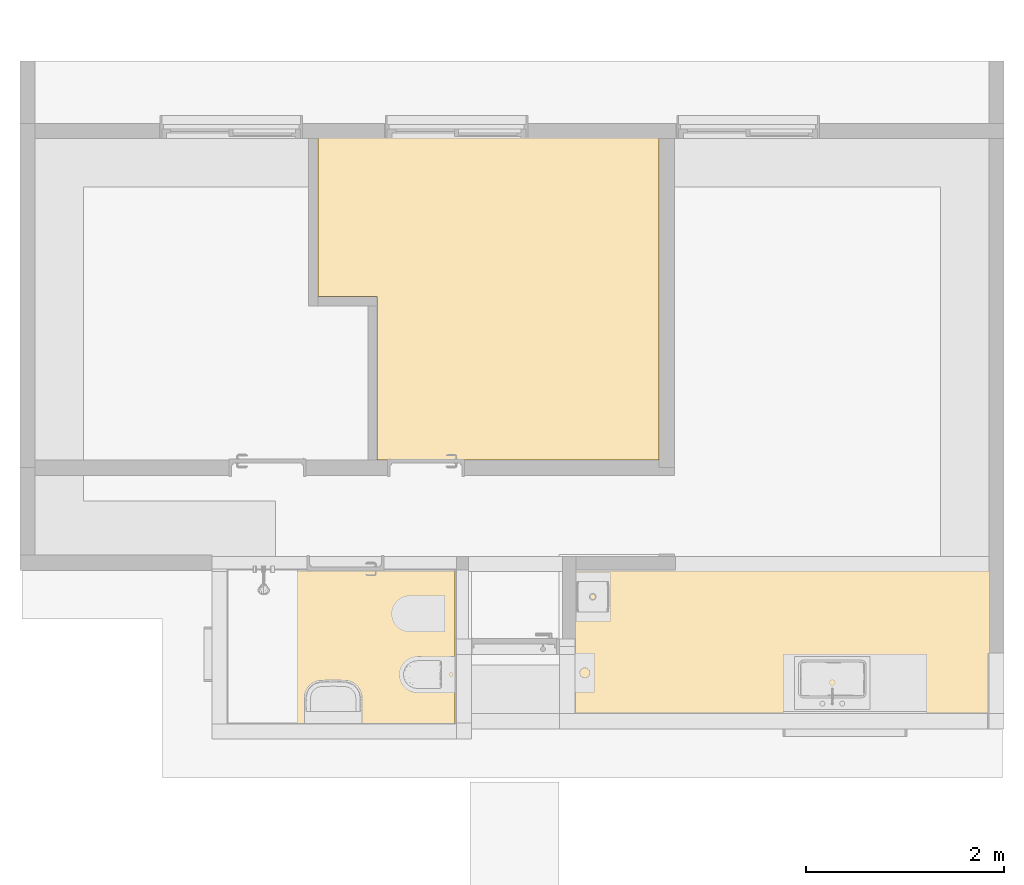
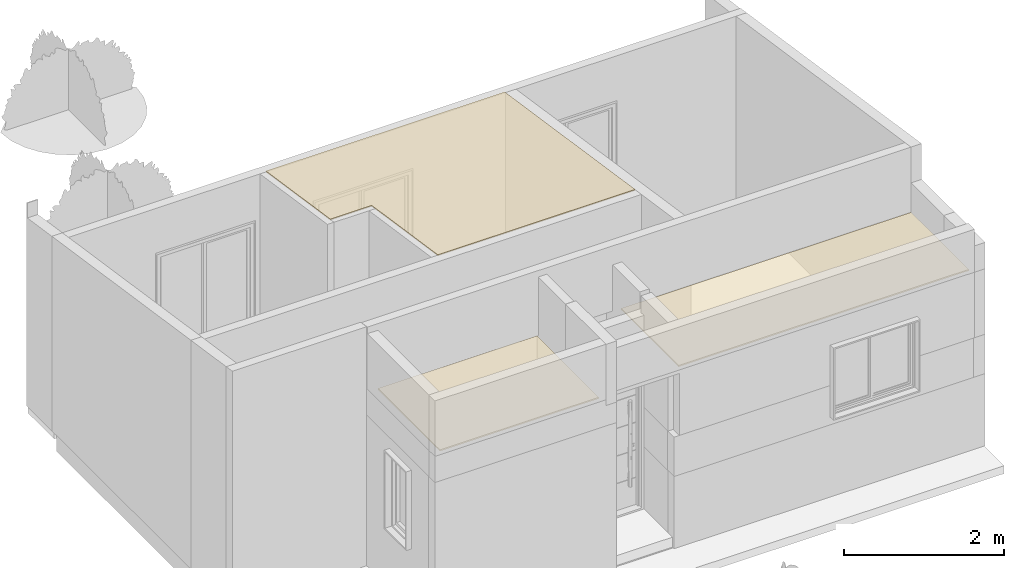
# One storey, part 5 of 8: 3 coverings.
"""IFC2X3 building model written with IfcOpenShell, lengths in metres."""

from ifc_helpers import new_model, entity, si_unit, converted_unit, derived_unit, direction, frame, frame_2d, origin, place, context, subcontext, project, spatial, rectangle, extrude, faceted_brep, material, layer, layer_set, layer_usage, type_object, element, save


model = new_model("IFC2X3")

# Units and contexts
model_context = context("Model", 3, precision=1e-05, world=origin(), true_north=direction((6.12303176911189e-17, 1.0)))
body_context = subcontext(model_context, "Body", "Model", "MODEL_VIEW")
ifc_project = project(units=[si_unit("LENGTHUNIT", "METRE"), si_unit("AREAUNIT", "SQUARE_METRE"), si_unit("VOLUMEUNIT", "CUBIC_METRE"), converted_unit("PLANEANGLEUNIT", "DEGREE", entity("IfcRatioMeasure", 0.0174532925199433), si_unit("PLANEANGLEUNIT", "RADIAN"), dimensions=[0, 0, 0, 0, 0, 0, 0]), si_unit("MASSUNIT", "GRAM", prefix="KILO"), derived_unit("MASSDENSITYUNIT", [(si_unit("MASSUNIT", "GRAM", prefix="KILO"), 1), (si_unit("LENGTHUNIT", "METRE"), -3)]), si_unit("TIMEUNIT", "SECOND"), si_unit("FREQUENCYUNIT", "HERTZ"), si_unit("THERMODYNAMICTEMPERATUREUNIT", "DEGREE_CELSIUS"), derived_unit("THERMALTRANSMITTANCEUNIT", [(si_unit("MASSUNIT", "GRAM", prefix="KILO"), 1), (si_unit("THERMODYNAMICTEMPERATUREUNIT", "KELVIN"), -1), (si_unit("TIMEUNIT", "SECOND"), -3)]), derived_unit("VOLUMETRICFLOWRATEUNIT", [(si_unit("LENGTHUNIT", "METRE"), 3), (si_unit("TIMEUNIT", "SECOND"), -1)]), si_unit("ELECTRICCURRENTUNIT", "AMPERE"), si_unit("ELECTRICVOLTAGEUNIT", "VOLT"), si_unit("POWERUNIT", "WATT"), si_unit("FORCEUNIT", "NEWTON", prefix="KILO"), si_unit("ILLUMINANCEUNIT", "LUX"), si_unit("LUMINOUSFLUXUNIT", "LUMEN"), si_unit("LUMINOUSINTENSITYUNIT", "CANDELA"), derived_unit("USERDEFINED", [(si_unit("MASSUNIT", "GRAM", prefix="KILO"), -1), (si_unit("LENGTHUNIT", "METRE"), -2), (si_unit("TIMEUNIT", "SECOND"), 3), (si_unit("LUMINOUSFLUXUNIT", "LUMEN"), 1)]), derived_unit("LINEARVELOCITYUNIT", [(si_unit("LENGTHUNIT", "METRE"), 1), (si_unit("TIMEUNIT", "SECOND"), -1)]), si_unit("PRESSUREUNIT", "PASCAL"), derived_unit("USERDEFINED", [(si_unit("LENGTHUNIT", "METRE"), -2), (si_unit("MASSUNIT", "GRAM", prefix="KILO"), 1), (si_unit("TIMEUNIT", "SECOND"), -2)])], contexts=[model_context])

# Site, building, storey
site_placement = place(None, origin())
site = spatial("IfcSite", under=ifc_project, at=site_placement, Name="Surface", CompositionType="ELEMENT")
building_placement = place(site_placement, origin())
building = spatial("IfcBuilding", under=site, at=building_placement, CompositionType="ELEMENT")
storey_placement = place(building_placement, origin())
storey = spatial("IfcBuildingStorey", under=building, at=storey_placement, Name="Nivel 0.0", CompositionType="ELEMENT", Elevation=0.0)

# Covering
ifc_material = material(Name="Cielorraso aplicado de yeso")
ifc_layer = layer(ifc_material, 0.02)
ifc_layer_set = layer_set([ifc_layer], Name="Compound Ceiling:1282-Aplicado de yeso")
ifc_layer_usage_1 = layer_usage(ifc_layer_set, "AXIS3", "POSITIVE", 0.0)
covering_type_1 = type_object("IfcCoveringType", Name="Compound Ceiling:1282-Aplicado de yeso", PredefinedType="CEILING")
covering_1_placement = place(storey_placement, origin())
element("IfcCovering", 1, at=covering_1_placement, inside=storey, type_object=covering_type_1, material=ifc_layer_usage_1, Name="Compound Ceiling:1282-Aplicado de yeso", ObjectType="Compound Ceiling:1282-Aplicado de yeso", PredefinedType="CEILING", context=body_context, shape_type="SweptSolid", body=[
    extrude(rectangle(XDim=4.18342821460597, YDim=1.43598662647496, at=frame_2d((0.0, -2.77555756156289e-16), x_axis=(1.0, 0.0))), frame((-1.30079957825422, -2.54479201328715, 2.44999999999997), z_axis=(0.0, 0.0, 1.0), x_axis=(-1.0, 0.0, 0.0)), (0.0, 0.0, 1.0), 0.0199999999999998),
])

# Space
space_1_placement = place(storey_placement, origin())
space_1 = spatial("IfcSpace", under=storey, at=space_1_placement, Name="6", CompositionType="ELEMENT", InteriorOrExteriorSpace="INTERNAL")

# Covering
ifc_layer_usage_2 = layer_usage(ifc_layer_set, "AXIS3", "POSITIVE", 0.0)
covering_type_2 = type_object("IfcCoveringType", Name="Compound Ceiling:1282-Aplicado de yeso", PredefinedType="CEILING")
covering_2_placement = place(space_1_placement, origin())
element("IfcCovering", 2, at=covering_2_placement, inside=space_1, type_object=covering_type_2, material=ifc_layer_usage_2, Name="Compound Ceiling:1282-Aplicado de yeso", ObjectType="Compound Ceiling:1282-Aplicado de yeso", PredefinedType="CEILING", context=body_context, shape_type="SweptSolid", body=[
    extrude(rectangle(XDim=1.54723662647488, YDim=2.29099999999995, at=frame_2d((1.66533453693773e-16, 0.0), x_axis=(1.0, 0.0))), frame((-5.74851368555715, -2.5896670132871, 2.44999999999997), z_axis=(0.0, 0.0, 1.0), x_axis=(0.0, 1.0, 0.0)), (0.0, 0.0, 1.0), 0.0199999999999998),
])

# Space
space_2_placement = place(storey_placement, origin())
space_2 = spatial("IfcSpace", under=storey, at=space_2_placement, Name="4", CompositionType="ELEMENT", InteriorOrExteriorSpace="INTERNAL")

# Covering
ifc_layer_usage_3 = layer_usage(ifc_layer_set, "AXIS3", "POSITIVE", 0.0)
covering_type_3 = type_object("IfcCoveringType", Name="Compound Ceiling:1282-Aplicado de yeso", PredefinedType="CEILING")
covering_3_placement = place(space_2_placement, frame((-5.98733559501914, -0.704972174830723, 2.79741290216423)))
element("IfcCovering", 3, at=covering_3_placement, inside=space_2, type_object=covering_type_3, material=ifc_layer_usage_3, Name="Compound Ceiling:1282-Aplicado de yeso", ObjectType="Compound Ceiling:1282-Aplicado de yeso", PredefinedType="CEILING", context=body_context, shape_type="Brep", body=[
    faceted_brep([(0.597499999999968, 1.65093656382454, 0.261386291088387), (0.597499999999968, 0.0, 0.509026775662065), (3.44411710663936, 0.0, 0.509026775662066), (3.44411710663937, 3.25868684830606, 0.020223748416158), (0.0, 3.25868684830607, 0.0202237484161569), (0.0, 1.65093656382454, 0.261386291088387), (0.597499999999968, 1.65093656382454, 0.24116254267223), (0.0, 1.65093656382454, 0.24116254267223), (0.0, 3.25868684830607, 0.0), (3.44411710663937, 3.25868684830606, 0.0), (3.44411710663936, 0.0, 0.488803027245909), (0.597499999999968, 0.0, 0.488803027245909)], [[[0, 1, 2, 3, 4, 5]], [[6, 7, 8, 9, 10, 11]], [[1, 0, 6, 11]], [[2, 1, 11, 10]], [[3, 2, 10, 9]], [[4, 3, 9, 8]], [[5, 4, 8, 7]], [[0, 5, 7, 6]]]),
])

save(model, "model.ifc")
